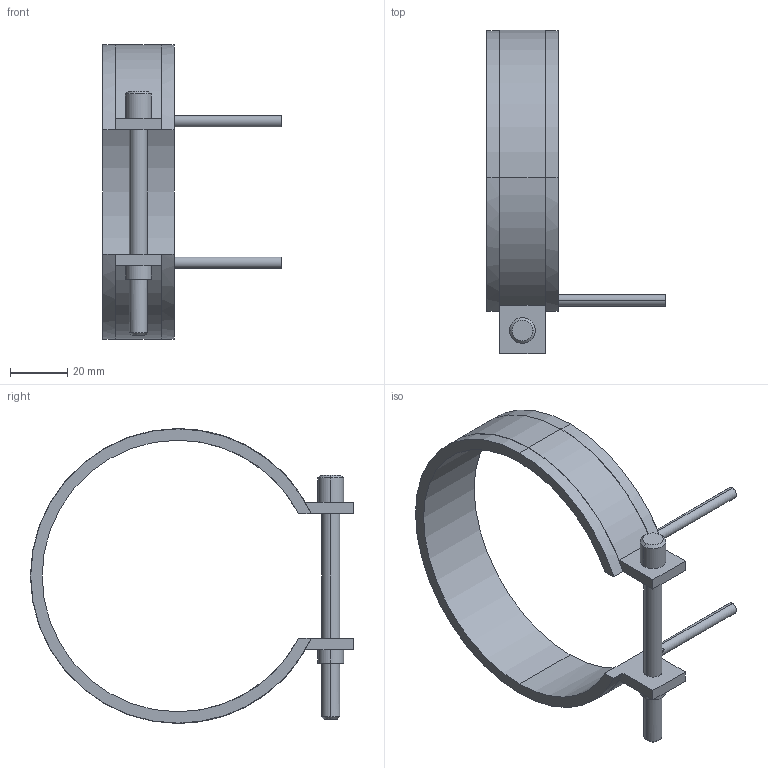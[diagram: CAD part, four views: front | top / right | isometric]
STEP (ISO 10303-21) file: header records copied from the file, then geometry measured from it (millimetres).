
FILE_DESCRIPTION(('CATIA V5 STEP Exchange'),'2;1');
FILE_NAME('C:\Users\Utente\Desktop\IO LAVORO\3D X SITO CF\X SITO\PLASTICA\RF2\14095025.stp','2021-04-06T16:06:41+00:00',('none'),('none'),'CATIA Version 5 Release 20 GA (IN-10)','CATIA V5 STEP AP203','none');
FILE_SCHEMA(('CONFIG_CONTROL_DESIGN'));
Length unit declared in the file: millimetre
Products named in the file (1): 14095025
Bounding box: 62.5 x 113.1 x 103.2 mm (x, y, z)
Volume: 32886.1 mm3; surface area: 19475.1 mm2
Topology: 1 solids, 1 shells, 45 faces, 116 edges, 76 vertices
Faces by surface type: cylinder 24, plane 17, cone 4
Entity records: 1406 total; most frequent: CARTESIAN_POINT 282, ORIENTED_EDGE 232, DIRECTION 195, EDGE_CURVE 116, AXIS2_PLACEMENT_3D 103, VERTEX_POINT 76, CIRCLE 61, VECTOR 52
